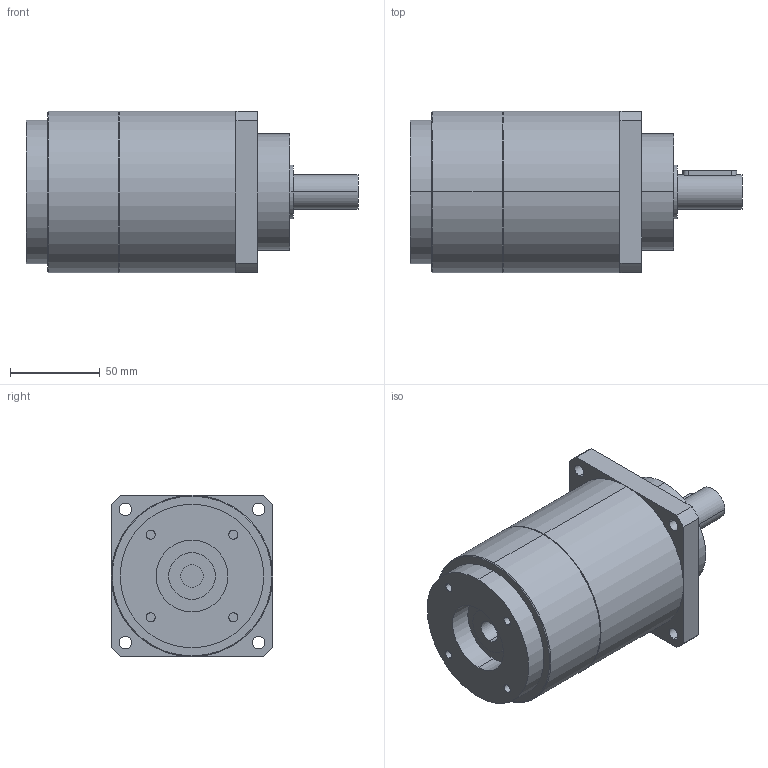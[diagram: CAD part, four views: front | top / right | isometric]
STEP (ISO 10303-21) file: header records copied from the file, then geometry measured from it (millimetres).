
FILE_DESCRIPTION(('CoCreate Modeling STEP Export'),'2;1');
FILE_NAME('GPT90_ig-9-12-16-20-25-28-35-40-50-70-100_19_B5T_12.7_P26.stp','2015-02-04T11:27:51',(''),(''),'CoCreate Modeling STEP processor for AP214 (Solid Model)','CoCreate Modeling 16.00C 25-Feb-2009 (C) Parametric Technology GmbH','');
FILE_SCHEMA(('AUTOMOTIVE_DESIGN { 1 0 10303 214 1 1 1 1 }'));
Length unit declared in the file: millimetre
Products named in the file (2): GPT90_ig-9-12-16-20-25-28-35-40-50-70-100_19_B5T_12.7_P26
Assembly tree (1 placements, depth 2):
  GPT90_ig-9-12-16-20-25-28-35-40-50-70-100_19_B5T_12.7_P26
    GPT90_ig-9-12-16-20-25-28-35-40-50-70-100_19_B5T_12.7_P26
Bounding box: 185 x 90 x 90 mm (x, y, z)
Volume: 875424.7 mm3; surface area: 64239.3 mm2
Topology: 1 solids, 1 shells, 72 faces, 182 edges, 125 vertices
Faces by surface type: cylinder 42, plane 26, cone 4
Entity records: 2313 total; most frequent: CARTESIAN_POINT 692, ORIENTED_EDGE 364, DIRECTION 272, EDGE_CURVE 182, VERTEX_POINT 125, AXIS2_PLACEMENT_3D 102, EDGE_LOOP 93, FACE_OUTER_BOUND 72
